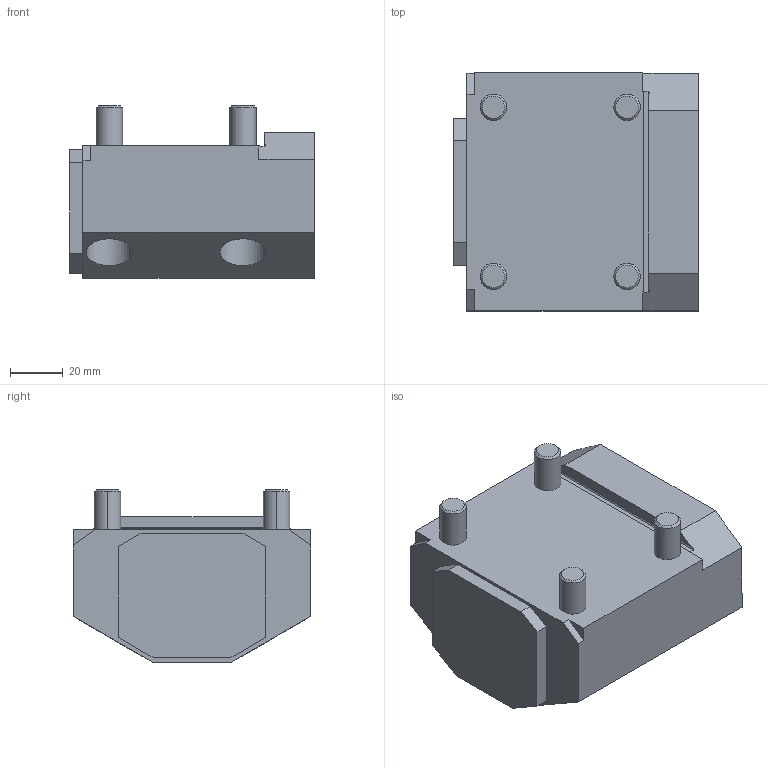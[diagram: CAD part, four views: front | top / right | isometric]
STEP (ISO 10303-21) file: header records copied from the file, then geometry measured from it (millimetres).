
FILE_DESCRIPTION (( 'STEP AP214' ), '1' );
FILE_NAME ('EWS-10339.STEP', '2018-02-13T16:57:33', ( '' ), ( '' ), 'SwSTEP 2.0', 'SolidWorks 2017', '' );
FILE_SCHEMA (( 'AUTOMOTIVE_DESIGN' ));
Length unit declared in the file: inch
Products named in the file (1): EWS-10339
Bounding box: 92.63 x 90 x 65.17 mm (x, y, z)
Volume: 294695.9 mm3; surface area: 48179.5 mm2
Topology: 1 solids, 1 shells, 176 faces, 382 edges, 218 vertices
Faces by surface type: plane 90, cone 58, cylinder 28
Entity records: 4904 total; most frequent: CARTESIAN_POINT 1085, DIRECTION 818, ORIENTED_EDGE 748, EDGE_CURVE 374, AXIS2_PLACEMENT_3D 303, VERTEX_POINT 218, LINE 212, VECTOR 212
